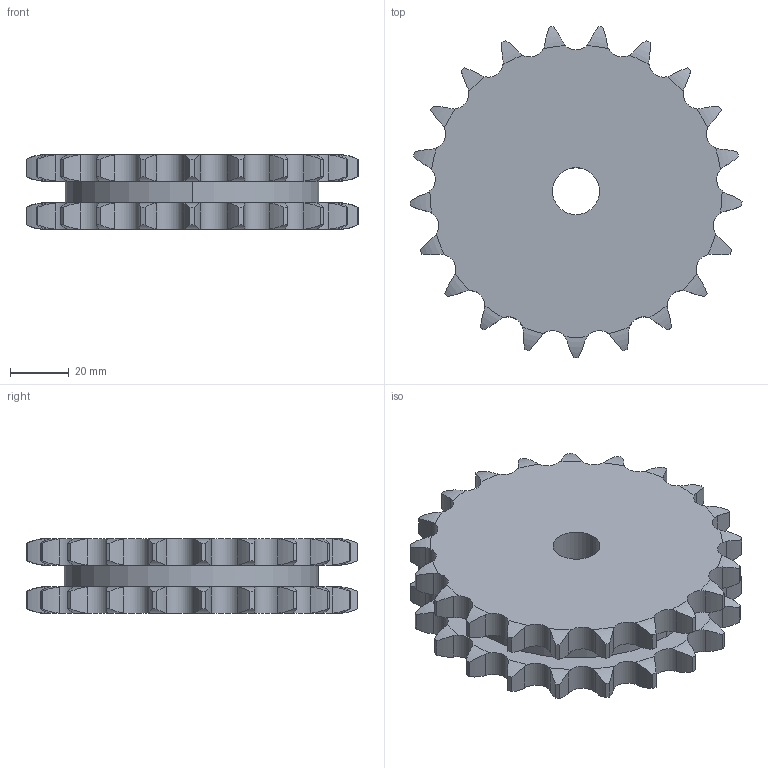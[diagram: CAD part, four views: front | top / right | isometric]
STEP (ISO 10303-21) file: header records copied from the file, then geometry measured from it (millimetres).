
FILE_DESCRIPTION((''),'2;1');
FILE_NAME('500-302-0021_PRT','2021-02-12T',('Brieden'),('Brieden'),'PRO/ENGINEER BY PARAMETRIC TECHNOLOGY CORPORATION, 2010160','PRO/ENGINEER BY PARAMETRIC TECHNOLOGY CORPORATION, 2010160','');
FILE_SCHEMA(('AUTOMOTIVE_DESIGN { 1 0 10303 214 1 1 1 1 }'));
Length unit declared in the file: millimetre
Products named in the file (1): 500-302-0021_PRT
Bounding box: 113.18 x 112.87 x 25.5 mm (x, y, z)
Volume: 187480.5 mm3; surface area: 32974.7 mm2
Topology: 1 solids, 1 shells, 260 faces, 768 edges, 512 vertices
Faces by surface type: cylinder 172, torus 84, plane 4
Entity records: 12423 total; most frequent: CARTESIAN_POINT 3508, ORIENTED_EDGE 1536, DIRECTION 1212, PRESENTATION_STYLE_ASSIGNMENT 769, STYLED_ITEM 769, CURVE_STYLE 768, EDGE_CURVE 768, AXIS2_PLACEMENT_3D 520
